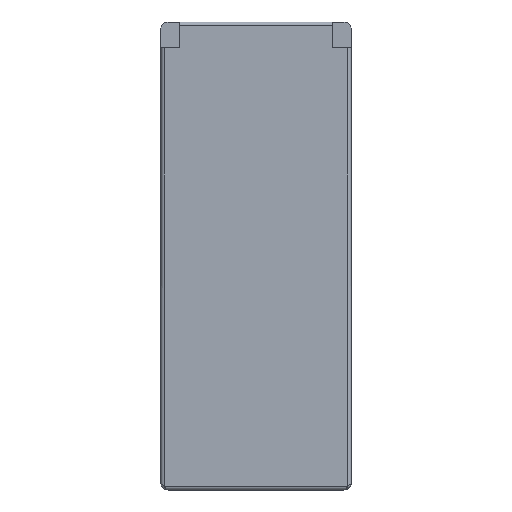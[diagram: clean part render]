
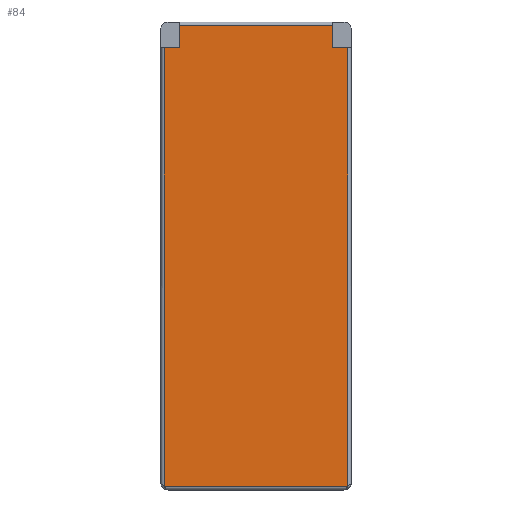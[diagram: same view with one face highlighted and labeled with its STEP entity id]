
A CAD part, front view. The second image highlights one B-rep face of the part: STEP entity #84.
In plain terms, the highlighted planar face has unit normal (0, -1, 0).
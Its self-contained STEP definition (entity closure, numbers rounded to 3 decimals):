
#84=ADVANCED_FACE('',(#183),#899,.T.);
#183=FACE_OUTER_BOUND('',#282,.F.);
#282=EDGE_LOOP('',(#389,#390,#391,#392,#393,#394,#395,#396));
#389=ORIENTED_EDGE('',*,*,#1539,.T.);
#390=ORIENTED_EDGE('',*,*,#1528,.T.);
#391=ORIENTED_EDGE('',*,*,#1527,.T.);
#392=ORIENTED_EDGE('',*,*,#1541,.T.);
#393=ORIENTED_EDGE('',*,*,#1519,.T.);
#394=ORIENTED_EDGE('',*,*,#1518,.T.);
#395=ORIENTED_EDGE('',*,*,#1537,.T.);
#396=ORIENTED_EDGE('',*,*,#1535,.T.);
#899=PLANE('',#1903);
#1070=LINE('',#2737,#1291);
#1071=LINE('',#2738,#1292);
#1076=LINE('',#2746,#1297);
#1077=LINE('',#2747,#1298);
#1082=LINE('',#2754,#1303);
#1084=LINE('',#2756,#1305);
#1086=LINE('',#2758,#1307);
#1088=LINE('',#2760,#1309);
#1291=VECTOR('',#2103,39.94);
#1292=VECTOR('',#2104,59.948);
#1297=VECTOR('',#2115,59.948);
#1298=VECTOR('',#2116,39.76);
#1303=VECTOR('',#2125,495.);
#1305=VECTOR('',#2127,1185.052);
#1307=VECTOR('',#2129,1185.052);
#1309=VECTOR('',#2131,415.3);
#1518=EDGE_CURVE('',#1780,#1787,#1070,.T.);
#1519=EDGE_CURVE('',#1786,#1780,#1071,.T.);
#1527=EDGE_CURVE('',#1771,#1776,#1076,.T.);
#1528=EDGE_CURVE('',#1779,#1771,#1077,.T.);
#1535=EDGE_CURVE('',#1762,#1761,#1082,.T.);
#1537=EDGE_CURVE('',#1787,#1762,#1084,.T.);
#1539=EDGE_CURVE('',#1761,#1779,#1086,.T.);
#1541=EDGE_CURVE('',#1776,#1786,#1088,.T.);
#1761=VERTEX_POINT('',#2531);
#1762=VERTEX_POINT('',#2532);
#1771=VERTEX_POINT('',#2541);
#1776=VERTEX_POINT('',#2546);
#1779=VERTEX_POINT('',#2549);
#1780=VERTEX_POINT('',#2550);
#1786=VERTEX_POINT('',#2556);
#1787=VERTEX_POINT('',#2557);
#1903=AXIS2_PLACEMENT_3D('',#2970,#2280,#2281);
#2103=DIRECTION('',(1.,0.,0.));
#2104=DIRECTION('',(0.,0.,-1.));
#2115=DIRECTION('',(0.,0.,1.));
#2116=DIRECTION('',(1.,0.,0.));
#2125=DIRECTION('',(-1.,0.,0.));
#2127=DIRECTION('',(0.,0.,-1.));
#2129=DIRECTION('',(0.,0.,1.));
#2131=DIRECTION('',(1.,0.,0.));
#2280=DIRECTION('',(0.,-1.,0.));
#2281=DIRECTION('',(-1.,0.,0.));
#2531=CARTESIAN_POINT('',(-436.609,249.75,538.716));
#2532=CARTESIAN_POINT('',(58.391,249.75,538.716));
#2541=CARTESIAN_POINT('',(-396.849,249.75,1723.767));
#2546=CARTESIAN_POINT('',(-396.849,249.75,1783.716));
#2549=CARTESIAN_POINT('',(-436.609,249.75,1723.767));
#2550=CARTESIAN_POINT('',(18.451,249.75,1723.767));
#2556=CARTESIAN_POINT('',(18.451,249.75,1783.716));
#2557=CARTESIAN_POINT('',(58.391,249.75,1723.767));
#2737=CARTESIAN_POINT('',(18.451,249.75,1723.767));
#2738=CARTESIAN_POINT('',(18.451,249.75,1783.716));
#2746=CARTESIAN_POINT('',(-396.849,249.75,1723.767));
#2747=CARTESIAN_POINT('',(-436.609,249.75,1723.767));
#2754=CARTESIAN_POINT('',(58.391,249.75,538.716));
#2756=CARTESIAN_POINT('',(58.391,249.75,1723.767));
#2758=CARTESIAN_POINT('',(-436.609,249.75,538.716));
#2760=CARTESIAN_POINT('',(-396.849,249.75,1783.716));
#2970=CARTESIAN_POINT('',(81.041,249.75,1806.366));
